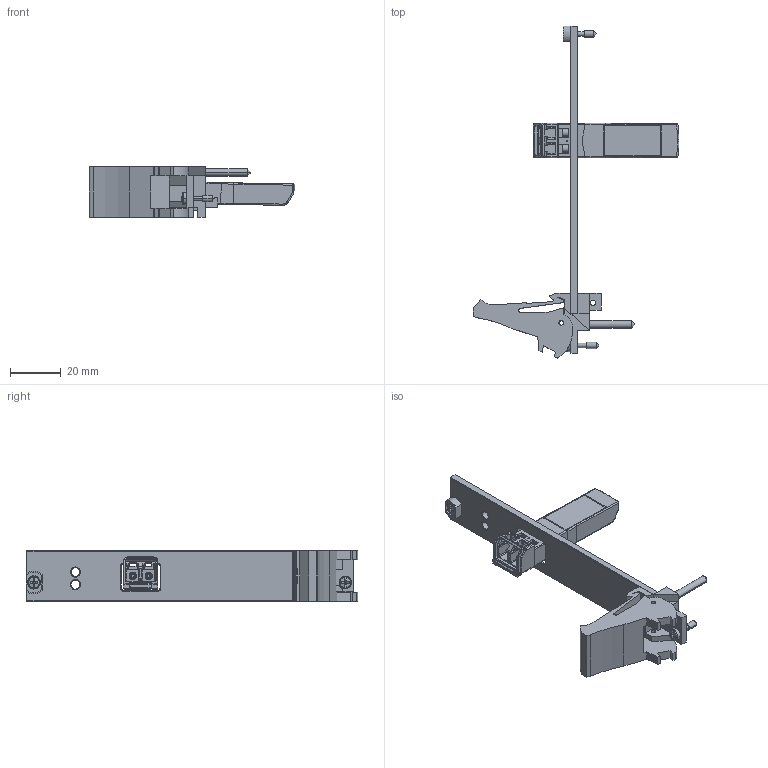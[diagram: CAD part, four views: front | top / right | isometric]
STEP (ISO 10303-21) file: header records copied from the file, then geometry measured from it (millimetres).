
FILE_DESCRIPTION((''),'2;1');
FILE_NAME('CU_PXI-8368_REV2','2016-03-16T',('nmeriwet'),(''),'PRO/ENGINEER BY PARAMETRIC TECHNOLOGY CORPORATION, 2015280','PRO/ENGINEER BY PARAMETRIC TECHNOLOGY CORPORATION, 2015280','');
FILE_SCHEMA(('CONFIG_CONTROL_DESIGN'));
Length unit declared in the file: inch
Products named in the file (1): CU_PXI-8368_REV2
Bounding box: 80.91 x 130.5 x 20.02 mm (x, y, z)
Volume: 19352.7 mm3; surface area: 15317.5 mm2
Topology: 2 solids, 2 shells, 804 faces, 2182 edges, 1393 vertices
Faces by surface type: plane 437, cylinder 270, torus 47, cone 23, bspline 21, sphere 6
Entity records: 28596 total; most frequent: CARTESIAN_POINT 8118, ORIENTED_EDGE 4352, DIRECTION 4190, EDGE_CURVE 2176, VECTOR 1412, LINE 1412, VERTEX_POINT 1393, AXIS2_PLACEMENT_3D 1389
